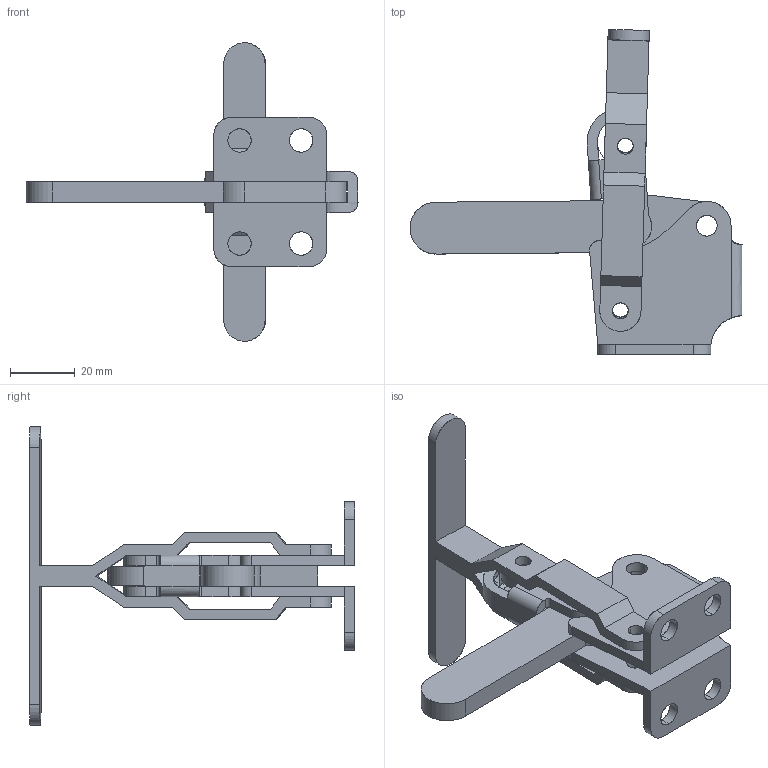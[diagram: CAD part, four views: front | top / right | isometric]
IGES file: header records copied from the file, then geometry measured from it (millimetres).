
Start section: SolidWorks IGES file using analytic representation for surfaces
Global section: file name: D:\GH Files\GH-SW-FILES\GH1\GH-12140,12141\12141\GH-12141.IGS; native system: SolidWorks 2006 by SolidWorks Corporation; preprocessor: SolidWorks 2006 by SolidWorks Corporation; author: Administrator; date: 060824.172004; units: millimetre
Bounding box: 102.44 x 100.29 x 92.1 mm (x, y, z)
Surface area: 26750.2 mm2 (no closed solid volume)
Topology: 0 solids, 0 shells, 165 faces, 2799 edges, 2799 vertices
Faces by surface type: revolution 85, bspline 80
